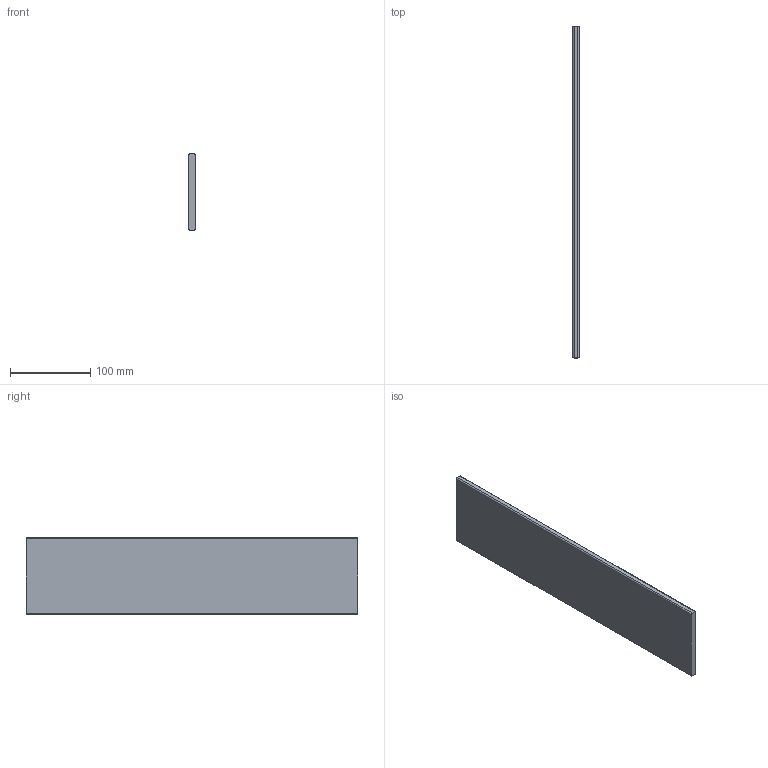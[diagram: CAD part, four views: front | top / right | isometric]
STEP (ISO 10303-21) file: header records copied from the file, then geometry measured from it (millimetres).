
FILE_DESCRIPTION (( 'STEP AP214' ), '1' );
FILE_NAME ('Einschubelement_Crystal_NL-450.step', '2010-10-06T11:41:39', ( 'grass' ), ( '' ), 'SwSTEP 2.0', 'SolidWorks 2010', '' );
FILE_SCHEMA (( 'AUTOMOTIVE_DESIGN' ));
Length unit declared in the file: millimetre
Products named in the file (1): Einschubelement_Crystal_NL-450
Bounding box: 7.8 x 413 x 95.8 mm (x, y, z)
Volume: 307702.5 mm3; surface area: 85929.2 mm2
Topology: 1 solids, 1 shells, 10 faces, 24 edges, 16 vertices
Faces by surface type: plane 6, cylinder 4
Entity records: 330 total; most frequent: DIRECTION 54, CARTESIAN_POINT 51, ORIENTED_EDGE 48, EDGE_CURVE 24, AXIS2_PLACEMENT_3D 19, LINE 16, VECTOR 16, VERTEX_POINT 16
